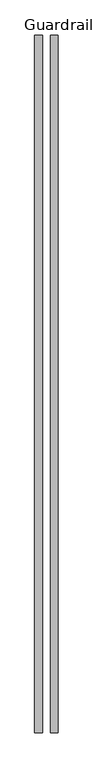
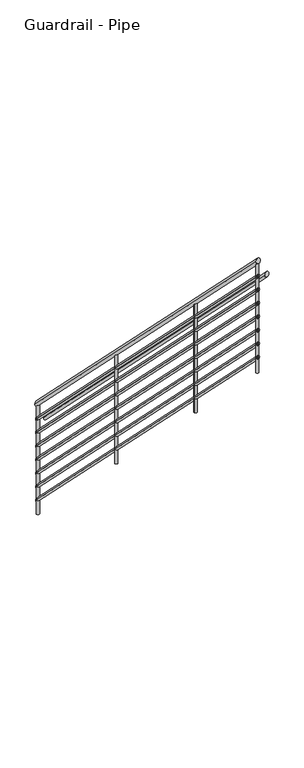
"""IFC4 building model written with IfcOpenShell, lengths in millimetres: railing geometry, Guardrail - Pipe."""

from ifc_helpers import new_model, si_unit, frame, origin, place, context, project, spatial, circle_curve, ellipse_curve, source, transform, mapped, element, save
from ifc_brep_helpers import plane_surface, cylinder_surface, advanced_brep


def guardrail_pipe_78e181e5(model_context):
    return source(origin(), model_context, "Body", "AdvancedBrep", [
        advanced_brep(
        [(-1517.7362718, 32344.1921646, 1268.4592316), (-1555.8362718, 32344.1921646, 1268.4592316), (-1517.7362718, 28942.3977925, 4670.2536037), (-1555.8362718, 28942.3977925, 4670.2536037)],
        [
            (0, 1, ellipse_curve(frame((-1536.7862718, 32344.1921646, 1268.4592316), z_axis=(0.0, 1.0, 0.0), x_axis=(0.0, 0.0, -1.0)), 26.9407684, 19.05)),
            (1, 0, ellipse_curve(frame((-1536.7862718, 32344.1921646, 1268.4592316), z_axis=(0.0, 1.0, 0.0), x_axis=(0.0, 0.0, -1.0)), 26.9407684, 19.05)),
            (2, 3, ellipse_curve(frame((-1536.7862718, 28942.3977925, 4670.2536037), z_axis=(0.0, -1.0, 0.0), x_axis=(0.0, 0.0, -1.0)), 26.9407684, 19.05)),
            (3, 2, ellipse_curve(frame((-1536.7862718, 28942.3977925, 4670.2536037), z_axis=(0.0, -1.0, 0.0), x_axis=(0.0, 0.0, -1.0)), 26.9407684, 19.05)),
            (0, 2),
            (3, 1),
        ],
        [
            plane_surface(frame((-1536.7862718, 32344.1921646, 1295.4), z_axis=(0.0, 1.0, 0.0), x_axis=(0.0, 0.0, -1.0))),
            plane_surface(frame((-1536.7862718, 28942.3977925, 4697.194372), z_axis=(0.0, -1.0, 0.0), x_axis=(0.0, 0.0, -1.0))),
            cylinder_surface(frame((-1536.7862718, 32330.7217804, 1281.9296158), z_axis=(0.0, 0.7071067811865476, -0.7071067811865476), x_axis=(-1.0, 0.0, 0.0)), 19.05),
        ],
        [
            (0, [[1, 2]]),
            (1, [[3, 4]]),
            (2, [[-1, 5, -4, 6]]),
            (2, [[-2, -6, -3, -5]]),
        ],
    ),
        advanced_brep(
        [(-1524.0862718, 32344.1921646, 1125.0394878), (-1549.4862718, 32344.1921646, 1125.0394878), (-1524.0862718, 28942.3977925, 4526.8338598), (-1549.4862718, 28942.3977925, 4526.8338598)],
        [
            (0, 1, ellipse_curve(frame((-1536.7862718, 32344.1921646, 1125.0394878), z_axis=(0.0, 1.0, 0.0), x_axis=(0.0, 0.0, -1.0)), 17.9605122, 12.7)),
            (1, 0, ellipse_curve(frame((-1536.7862718, 32344.1921646, 1125.0394878), z_axis=(0.0, 1.0, 0.0), x_axis=(0.0, 0.0, -1.0)), 17.9605122, 12.7)),
            (2, 3, ellipse_curve(frame((-1536.7862718, 28942.3977925, 4526.8338598), z_axis=(0.0, -1.0, 0.0), x_axis=(0.0, 0.0, -1.0)), 17.9605122, 12.7)),
            (3, 2, ellipse_curve(frame((-1536.7862718, 28942.3977925, 4526.8338598), z_axis=(0.0, -1.0, 0.0), x_axis=(0.0, 0.0, -1.0)), 17.9605122, 12.7)),
            (0, 2),
            (3, 1),
        ],
        [
            plane_surface(frame((-1536.7862718, 32344.1921646, 1143.0), z_axis=(0.0, 1.0, 0.0), x_axis=(0.0, 0.0, -1.0))),
            plane_surface(frame((-1536.7862718, 28942.3977925, 4544.794372), z_axis=(0.0, -1.0, 0.0), x_axis=(0.0, 0.0, -1.0))),
            cylinder_surface(frame((-1536.7862718, 32335.2119084, 1134.0197439), z_axis=(0.0, 0.7071067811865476, -0.7071067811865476), x_axis=(-1.0, 0.0, 0.0)), 12.7),
        ],
        [
            (0, [[1, 2]]),
            (1, [[3, 4]]),
            (2, [[-1, 5, -4, 6]]),
            (2, [[-2, -6, -3, -5]]),
        ],
    ),
        advanced_brep(
        [(-1441.5362718, 32344.1921646, 1116.0592316), (-1479.6362718, 32344.1921646, 1116.0592316), (-1441.5362718, 28942.3977925, 4517.8536037), (-1479.6362718, 28942.3977925, 4517.8536037)],
        [
            (0, 1, ellipse_curve(frame((-1460.5862718, 32344.1921646, 1116.0592316), z_axis=(0.0, 1.0, 0.0), x_axis=(0.0, 0.0, -1.0)), 26.9407684, 19.05)),
            (1, 0, ellipse_curve(frame((-1460.5862718, 32344.1921646, 1116.0592316), z_axis=(0.0, 1.0, 0.0), x_axis=(0.0, 0.0, -1.0)), 26.9407684, 19.05)),
            (2, 3, ellipse_curve(frame((-1460.5862718, 28942.3977925, 4517.8536037), z_axis=(0.0, -1.0, 0.0), x_axis=(0.0, 0.0, -1.0)), 26.9407684, 19.05)),
            (3, 2, ellipse_curve(frame((-1460.5862718, 28942.3977925, 4517.8536037), z_axis=(0.0, -1.0, 0.0), x_axis=(0.0, 0.0, -1.0)), 26.9407684, 19.05)),
            (0, 2),
            (3, 1),
        ],
        [
            plane_surface(frame((-1460.5862718, 32344.1921646, 1143.0), z_axis=(0.0, 1.0, 0.0), x_axis=(0.0, 0.0, -1.0))),
            plane_surface(frame((-1460.5862718, 28942.3977925, 4544.794372), z_axis=(0.0, -1.0, 0.0), x_axis=(0.0, 0.0, -1.0))),
            cylinder_surface(frame((-1460.5862718, 32330.7217804, 1129.5296158), z_axis=(0.0, 0.7071067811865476, -0.7071067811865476), x_axis=(-1.0, 0.0, 0.0)), 19.05),
        ],
        [
            (0, [[1, 2]]),
            (1, [[3, 4]]),
            (2, [[-1, 5, -4, 6]]),
            (2, [[-2, -6, -3, -5]]),
        ],
    ),
        advanced_brep(
        [(-1524.0862718, 32344.1921646, 998.0394878), (-1549.4862718, 32344.1921646, 998.0394878), (-1524.0862718, 28942.3977925, 4399.8338598), (-1549.4862718, 28942.3977925, 4399.8338598)],
        [
            (0, 1, ellipse_curve(frame((-1536.7862718, 32344.1921646, 998.0394878), z_axis=(0.0, 1.0, 0.0), x_axis=(0.0, 0.0, -1.0)), 17.9605122, 12.7)),
            (1, 0, ellipse_curve(frame((-1536.7862718, 32344.1921646, 998.0394878), z_axis=(0.0, 1.0, 0.0), x_axis=(0.0, 0.0, -1.0)), 17.9605122, 12.7)),
            (2, 3, ellipse_curve(frame((-1536.7862718, 28942.3977925, 4399.8338598), z_axis=(0.0, -1.0, 0.0), x_axis=(0.0, 0.0, -1.0)), 17.9605122, 12.7)),
            (3, 2, ellipse_curve(frame((-1536.7862718, 28942.3977925, 4399.8338598), z_axis=(0.0, -1.0, 0.0), x_axis=(0.0, 0.0, -1.0)), 17.9605122, 12.7)),
            (0, 2),
            (3, 1),
        ],
        [
            plane_surface(frame((-1536.7862718, 32344.1921646, 1016.0), z_axis=(0.0, 1.0, 0.0), x_axis=(0.0, 0.0, -1.0))),
            plane_surface(frame((-1536.7862718, 28942.3977925, 4417.794372), z_axis=(0.0, -1.0, 0.0), x_axis=(0.0, 0.0, -1.0))),
            cylinder_surface(frame((-1536.7862718, 32335.2119084, 1007.0197439), z_axis=(0.0, 0.7071067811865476, -0.7071067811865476), x_axis=(-1.0, 0.0, 0.0)), 12.7),
        ],
        [
            (0, [[1, 2]]),
            (1, [[3, 4]]),
            (2, [[-1, 5, -4, 6]]),
            (2, [[-2, -6, -3, -5]]),
        ],
    ),
        advanced_brep(
        [(-1524.0862718, 32344.1921646, 871.0394878), (-1549.4862718, 32344.1921646, 871.0394878), (-1524.0862718, 28942.3977925, 4272.8338598), (-1549.4862718, 28942.3977925, 4272.8338598)],
        [
            (0, 1, ellipse_curve(frame((-1536.7862718, 32344.1921646, 871.0394878), z_axis=(0.0, 1.0, 0.0), x_axis=(0.0, 0.0, -1.0)), 17.9605122, 12.7)),
            (1, 0, ellipse_curve(frame((-1536.7862718, 32344.1921646, 871.0394878), z_axis=(0.0, 1.0, 0.0), x_axis=(0.0, 0.0, -1.0)), 17.9605122, 12.7)),
            (2, 3, ellipse_curve(frame((-1536.7862718, 28942.3977925, 4272.8338598), z_axis=(0.0, -1.0, 0.0), x_axis=(0.0, 0.0, -1.0)), 17.9605122, 12.7)),
            (3, 2, ellipse_curve(frame((-1536.7862718, 28942.3977925, 4272.8338598), z_axis=(0.0, -1.0, 0.0), x_axis=(0.0, 0.0, -1.0)), 17.9605122, 12.7)),
            (0, 2),
            (3, 1),
        ],
        [
            plane_surface(frame((-1536.7862718, 32344.1921646, 889.0), z_axis=(0.0, 1.0, 0.0), x_axis=(0.0, 0.0, -1.0))),
            plane_surface(frame((-1536.7862718, 28942.3977925, 4290.794372), z_axis=(0.0, -1.0, 0.0), x_axis=(0.0, 0.0, -1.0))),
            cylinder_surface(frame((-1536.7862718, 32335.2119084, 880.0197439), z_axis=(0.0, 0.7071067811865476, -0.7071067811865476), x_axis=(-1.0, 0.0, 0.0)), 12.7),
        ],
        [
            (0, [[1, 2]]),
            (1, [[3, 4]]),
            (2, [[-1, 5, -4, 6]]),
            (2, [[-2, -6, -3, -5]]),
        ],
    ),
        advanced_brep(
        [(-1524.0862718, 32344.1921646, 744.0394878), (-1549.4862718, 32344.1921646, 744.0394878), (-1524.0862718, 28942.3977925, 4145.8338598), (-1549.4862718, 28942.3977925, 4145.8338598)],
        [
            (0, 1, ellipse_curve(frame((-1536.7862718, 32344.1921646, 744.0394878), z_axis=(0.0, 1.0, 0.0), x_axis=(0.0, 0.0, -1.0)), 17.9605122, 12.7)),
            (1, 0, ellipse_curve(frame((-1536.7862718, 32344.1921646, 744.0394878), z_axis=(0.0, 1.0, 0.0), x_axis=(0.0, 0.0, -1.0)), 17.9605122, 12.7)),
            (2, 3, ellipse_curve(frame((-1536.7862718, 28942.3977925, 4145.8338598), z_axis=(0.0, -1.0, 0.0), x_axis=(0.0, 0.0, -1.0)), 17.9605122, 12.7)),
            (3, 2, ellipse_curve(frame((-1536.7862718, 28942.3977925, 4145.8338598), z_axis=(0.0, -1.0, 0.0), x_axis=(0.0, 0.0, -1.0)), 17.9605122, 12.7)),
            (0, 2),
            (3, 1),
        ],
        [
            plane_surface(frame((-1536.7862718, 32344.1921646, 762.0), z_axis=(0.0, 1.0, 0.0), x_axis=(0.0, 0.0, -1.0))),
            plane_surface(frame((-1536.7862718, 28942.3977925, 4163.794372), z_axis=(0.0, -1.0, 0.0), x_axis=(0.0, 0.0, -1.0))),
            cylinder_surface(frame((-1536.7862718, 32335.2119084, 753.0197439), z_axis=(0.0, 0.7071067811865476, -0.7071067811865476), x_axis=(-1.0, 0.0, 0.0)), 12.7),
        ],
        [
            (0, [[1, 2]]),
            (1, [[3, 4]]),
            (2, [[-1, 5, -4, 6]]),
            (2, [[-2, -6, -3, -5]]),
        ],
    ),
        advanced_brep(
        [(-1524.0862718, 32344.1921646, 617.0394878), (-1549.4862718, 32344.1921646, 617.0394878), (-1524.0862718, 28942.3977925, 4018.8338598), (-1549.4862718, 28942.3977925, 4018.8338598)],
        [
            (0, 1, ellipse_curve(frame((-1536.7862718, 32344.1921646, 617.0394878), z_axis=(0.0, 1.0, 0.0), x_axis=(0.0, 0.0, -1.0)), 17.9605122, 12.7)),
            (1, 0, ellipse_curve(frame((-1536.7862718, 32344.1921646, 617.0394878), z_axis=(0.0, 1.0, 0.0), x_axis=(0.0, 0.0, -1.0)), 17.9605122, 12.7)),
            (2, 3, ellipse_curve(frame((-1536.7862718, 28942.3977925, 4018.8338598), z_axis=(0.0, -1.0, 0.0), x_axis=(0.0, 0.0, -1.0)), 17.9605122, 12.7)),
            (3, 2, ellipse_curve(frame((-1536.7862718, 28942.3977925, 4018.8338598), z_axis=(0.0, -1.0, 0.0), x_axis=(0.0, 0.0, -1.0)), 17.9605122, 12.7)),
            (0, 2),
            (3, 1),
        ],
        [
            plane_surface(frame((-1536.7862718, 32344.1921646, 635.0), z_axis=(0.0, 1.0, 0.0), x_axis=(0.0, 0.0, -1.0))),
            plane_surface(frame((-1536.7862718, 28942.3977925, 4036.794372), z_axis=(0.0, -1.0, 0.0), x_axis=(0.0, 0.0, -1.0))),
            cylinder_surface(frame((-1536.7862718, 32335.2119084, 626.0197439), z_axis=(0.0, 0.7071067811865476, -0.7071067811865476), x_axis=(-1.0, 0.0, 0.0)), 12.7),
        ],
        [
            (0, [[1, 2]]),
            (1, [[3, 4]]),
            (2, [[-1, 5, -4, 6]]),
            (2, [[-2, -6, -3, -5]]),
        ],
    ),
        advanced_brep(
        [(-1524.0862718, 32344.1921646, 490.0394878), (-1549.4862718, 32344.1921646, 490.0394878), (-1524.0862718, 28942.3977925, 3891.8338598), (-1549.4862718, 28942.3977925, 3891.8338598)],
        [
            (0, 1, ellipse_curve(frame((-1536.7862718, 32344.1921646, 490.0394878), z_axis=(0.0, 1.0, 0.0), x_axis=(0.0, 0.0, -1.0)), 17.9605122, 12.7)),
            (1, 0, ellipse_curve(frame((-1536.7862718, 32344.1921646, 490.0394878), z_axis=(0.0, 1.0, 0.0), x_axis=(0.0, 0.0, -1.0)), 17.9605122, 12.7)),
            (2, 3, ellipse_curve(frame((-1536.7862718, 28942.3977925, 3891.8338598), z_axis=(0.0, -1.0, 0.0), x_axis=(0.0, 0.0, -1.0)), 17.9605122, 12.7)),
            (3, 2, ellipse_curve(frame((-1536.7862718, 28942.3977925, 3891.8338598), z_axis=(0.0, -1.0, 0.0), x_axis=(0.0, 0.0, -1.0)), 17.9605122, 12.7)),
            (0, 2),
            (3, 1),
        ],
        [
            plane_surface(frame((-1536.7862718, 32344.1921646, 508.0), z_axis=(0.0, 1.0, 0.0), x_axis=(0.0, 0.0, -1.0))),
            plane_surface(frame((-1536.7862718, 28942.3977925, 3909.794372), z_axis=(0.0, -1.0, 0.0), x_axis=(0.0, 0.0, -1.0))),
            cylinder_surface(frame((-1536.7862718, 32335.2119084, 499.0197439), z_axis=(0.0, 0.7071067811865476, -0.7071067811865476), x_axis=(-1.0, 0.0, 0.0)), 12.7),
        ],
        [
            (0, [[1, 2]]),
            (1, [[3, 4]]),
            (2, [[-1, 5, -4, 6]]),
            (2, [[-2, -6, -3, -5]]),
        ],
    ),
        advanced_brep(
        [(-1524.0862718, 32344.1921646, 363.0394878), (-1549.4862718, 32344.1921646, 363.0394878), (-1524.0862718, 28942.3977925, 3764.8338598), (-1549.4862718, 28942.3977925, 3764.8338598)],
        [
            (0, 1, ellipse_curve(frame((-1536.7862718, 32344.1921646, 363.0394878), z_axis=(0.0, 1.0, 0.0), x_axis=(0.0, 0.0, -1.0)), 17.9605122, 12.7)),
            (1, 0, ellipse_curve(frame((-1536.7862718, 32344.1921646, 363.0394878), z_axis=(0.0, 1.0, 0.0), x_axis=(0.0, 0.0, -1.0)), 17.9605122, 12.7)),
            (2, 3, ellipse_curve(frame((-1536.7862718, 28942.3977925, 3764.8338598), z_axis=(0.0, -1.0, 0.0), x_axis=(0.0, 0.0, -1.0)), 17.9605122, 12.7)),
            (3, 2, ellipse_curve(frame((-1536.7862718, 28942.3977925, 3764.8338598), z_axis=(0.0, -1.0, 0.0), x_axis=(0.0, 0.0, -1.0)), 17.9605122, 12.7)),
            (0, 2),
            (3, 1),
        ],
        [
            plane_surface(frame((-1536.7862718, 32344.1921646, 381.0), z_axis=(0.0, 1.0, 0.0), x_axis=(0.0, 0.0, -1.0))),
            plane_surface(frame((-1536.7862718, 28942.3977925, 3782.794372), z_axis=(0.0, -1.0, 0.0), x_axis=(0.0, 0.0, -1.0))),
            cylinder_surface(frame((-1536.7862718, 32335.2119084, 372.0197439), z_axis=(0.0, 0.7071067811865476, -0.7071067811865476), x_axis=(-1.0, 0.0, 0.0)), 12.7),
        ],
        [
            (0, [[1, 2]]),
            (1, [[3, 4]]),
            (2, [[-1, 5, -4, 6]]),
            (2, [[-2, -6, -3, -5]]),
        ],
    ),
        advanced_brep(
        [(-1549.4862718, 29905.7921646, 3679.9184633), (-1549.4862718, 29905.7921646, 2667.0), (-1524.0862718, 29905.7921646, 2667.0), (-1524.0862718, 29905.7921646, 3679.9184633)],
        [
            (0, 1),
            (1, 2, circle_curve(frame((-1536.7862718, 29905.7921646, 2667.0), z_axis=(0.0, 0.0, 1.0), x_axis=(1.0, 0.0, 0.0)), 12.7)),
            (2, 3),
            (3, 0, ellipse_curve(frame((-1536.7862718, 29905.7921646, 3679.9184633), z_axis=(0.0, -0.7071067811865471, -0.7071067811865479), x_axis=(0.0, -0.7071067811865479, 0.7071067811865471)), 17.9605122, 12.7)),
            (0, 3, ellipse_curve(frame((-1536.7862718, 29905.7921646, 3679.9184633), z_axis=(0.0, -0.7071067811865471, -0.7071067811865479), x_axis=(0.0, -0.7071067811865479, 0.7071067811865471)), 17.9605122, 12.7)),
            (2, 1, circle_curve(frame((-1536.7862718, 29905.7921646, 2667.0), z_axis=(0.0, 0.0, 1.0), x_axis=(1.0, 0.0, 0.0)), 12.7)),
        ],
        [
            cylinder_surface(frame((-1536.7862718, 29905.7921646, 2438.4), z_axis=(0.0, 0.0, 1.0), x_axis=(1.0, 0.0, 0.0)), 12.7),
            plane_surface(frame((-1511.3862718, 29880.3921646, 3705.3184633), z_axis=(0.0, 0.7071067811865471, 0.7071067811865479), x_axis=(-1.0, 0.0, 0.0))),
            plane_surface(frame((-1511.3862718, 29931.1921646, 2667.0), z_axis=(0.0, 0.0, -1.0), x_axis=(-1.0, 0.0, 0.0))),
        ],
        [
            (0, [[1, 2, 3, 4]]),
            (0, [[-1, 5, -3, 6]]),
            (1, [[-4, -5]]),
            (2, [[-2, -6]]),
        ],
    ),
        advanced_brep(
        [(-1549.4862718, 31124.9921646, 2460.7184633), (-1549.4862718, 31124.9921646, 1447.8), (-1524.0862718, 31124.9921646, 1447.8), (-1524.0862718, 31124.9921646, 2460.7184633)],
        [
            (0, 1),
            (1, 2, circle_curve(frame((-1536.7862718, 31124.9921646, 1447.8), z_axis=(0.0, 0.0, 1.0), x_axis=(1.0, 0.0, 0.0)), 12.7)),
            (2, 3),
            (3, 0, ellipse_curve(frame((-1536.7862718, 31124.9921646, 2460.7184633), z_axis=(0.0, -0.7071067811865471, -0.7071067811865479), x_axis=(0.0, -0.7071067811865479, 0.7071067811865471)), 17.9605122, 12.7)),
            (0, 3, ellipse_curve(frame((-1536.7862718, 31124.9921646, 2460.7184633), z_axis=(0.0, -0.7071067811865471, -0.7071067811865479), x_axis=(0.0, -0.7071067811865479, 0.7071067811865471)), 17.9605122, 12.7)),
            (2, 1, circle_curve(frame((-1536.7862718, 31124.9921646, 1447.8), z_axis=(0.0, 0.0, 1.0), x_axis=(1.0, 0.0, 0.0)), 12.7)),
        ],
        [
            cylinder_surface(frame((-1536.7862718, 31124.9921646, 1219.2), z_axis=(0.0, 0.0, 1.0), x_axis=(1.0, 0.0, 0.0)), 12.7),
            plane_surface(frame((-1511.3862718, 31099.5921646, 2486.1184633), z_axis=(0.0, 0.7071067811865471, 0.7071067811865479), x_axis=(-1.0, 0.0, 0.0))),
            plane_surface(frame((-1511.3862718, 31150.3921646, 1447.8), z_axis=(0.0, 0.0, -1.0), x_axis=(-1.0, 0.0, 0.0))),
        ],
        [
            (0, [[1, 2, 3, 4]]),
            (0, [[-1, 5, -3, 6]]),
            (1, [[-4, -5]]),
            (2, [[-2, -6]]),
        ],
    ),
        advanced_brep(
        [(-1549.4862718, 28955.0977925, 4630.6128353), (-1549.4862718, 28955.0977925, 3617.694372), (-1524.0862718, 28955.0977925, 3617.694372), (-1524.0862718, 28955.0977925, 4630.6128353)],
        [
            (0, 1),
            (1, 2, circle_curve(frame((-1536.7862718, 28955.0977925, 3617.694372), z_axis=(0.0, 0.0, 1.0), x_axis=(1.0, 0.0, 0.0)), 12.7)),
            (2, 3),
            (3, 0, ellipse_curve(frame((-1536.7862718, 28955.0977925, 4630.6128353), z_axis=(0.0, -0.7071067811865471, -0.7071067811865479), x_axis=(0.0, -0.7071067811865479, 0.7071067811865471)), 17.9605122, 12.7)),
            (0, 3, ellipse_curve(frame((-1536.7862718, 28955.0977925, 4630.6128353), z_axis=(0.0, -0.7071067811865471, -0.7071067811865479), x_axis=(0.0, -0.7071067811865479, 0.7071067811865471)), 17.9605122, 12.7)),
            (2, 1, circle_curve(frame((-1536.7862718, 28955.0977925, 3617.694372), z_axis=(0.0, 0.0, 1.0), x_axis=(1.0, 0.0, 0.0)), 12.7)),
        ],
        [
            cylinder_surface(frame((-1536.7862718, 28955.0977925, 3389.094372), z_axis=(0.0, 0.0, 1.0), x_axis=(1.0, 0.0, 0.0)), 12.7),
            plane_surface(frame((-1511.3862718, 28929.6977925, 4656.0128353), z_axis=(0.0, 0.7071067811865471, 0.7071067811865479), x_axis=(-1.0, 0.0, 0.0))),
            plane_surface(frame((-1511.3862718, 28980.4977925, 3617.694372), z_axis=(0.0, 0.0, -1.0), x_axis=(-1.0, 0.0, 0.0))),
        ],
        [
            (0, [[1, 2, 3, 4]]),
            (0, [[-1, 5, -3, 6]]),
            (1, [[-4, -5]]),
            (2, [[-2, -6]]),
        ],
    ),
        advanced_brep(
        [(-1549.4862718, 32331.4921646, 1254.2184633), (-1549.4862718, 32331.4921646, 241.3), (-1524.0862718, 32331.4921646, 241.3), (-1524.0862718, 32331.4921646, 1254.2184633)],
        [
            (0, 1),
            (1, 2, circle_curve(frame((-1536.7862718, 32331.4921646, 241.3), z_axis=(0.0, 0.0, 1.0), x_axis=(1.0, 0.0, 0.0)), 12.7)),
            (2, 3),
            (3, 0, ellipse_curve(frame((-1536.7862718, 32331.4921646, 1254.2184633), z_axis=(0.0, -0.7071067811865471, -0.7071067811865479), x_axis=(0.0, -0.7071067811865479, 0.7071067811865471)), 17.9605122, 12.7)),
            (0, 3, ellipse_curve(frame((-1536.7862718, 32331.4921646, 1254.2184633), z_axis=(0.0, -0.7071067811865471, -0.7071067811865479), x_axis=(0.0, -0.7071067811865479, 0.7071067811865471)), 17.9605122, 12.7)),
            (2, 1, circle_curve(frame((-1536.7862718, 32331.4921646, 241.3), z_axis=(0.0, 0.0, 1.0), x_axis=(1.0, 0.0, 0.0)), 12.7)),
        ],
        [
            cylinder_surface(frame((-1536.7862718, 32331.4921646, 12.7), z_axis=(0.0, 0.0, 1.0), x_axis=(1.0, 0.0, 0.0)), 12.7),
            plane_surface(frame((-1511.3862718, 32306.0921646, 1279.6184633), z_axis=(0.0, 0.7071067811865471, 0.7071067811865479), x_axis=(-1.0, 0.0, 0.0))),
            plane_surface(frame((-1511.3862718, 32356.8921646, 241.3), z_axis=(0.0, 0.0, -1.0), x_axis=(-1.0, 0.0, 0.0))),
        ],
        [
            (0, [[1, 2, 3, 4]]),
            (0, [[-1, 5, -3, 6]]),
            (1, [[-4, -5]]),
            (2, [[-2, -6]]),
        ],
    ),
    ])


if __name__ == "__main__":
    model = new_model("IFC4")
    model_context = context("Model", 3, world=origin())
    ifc_project = project(units=[si_unit("LENGTHUNIT", "METRE", prefix="MILLI")], contexts=[model_context])
    site = spatial("IfcSite", under=ifc_project)
    building = spatial("IfcBuilding", under=site)
    placement = place(None, origin())
    guardrail_pipe_shape = guardrail_pipe_78e181e5(model_context)
    element("IfcRailing", 1, ObjectType="Guardrail - Pipe", at=placement, inside=building, context=model_context, shape_type="MappedRepresentation", body=[
        mapped(guardrail_pipe_shape, transform((0.0, 0.0, 0.0), x_axis=(1.0, 0.0, 0.0), y_axis=(0.0, 1.0, 0.0), z_axis=(0.0, 0.0, 1.0))),
    ])
    save(model, "model.ifc")
